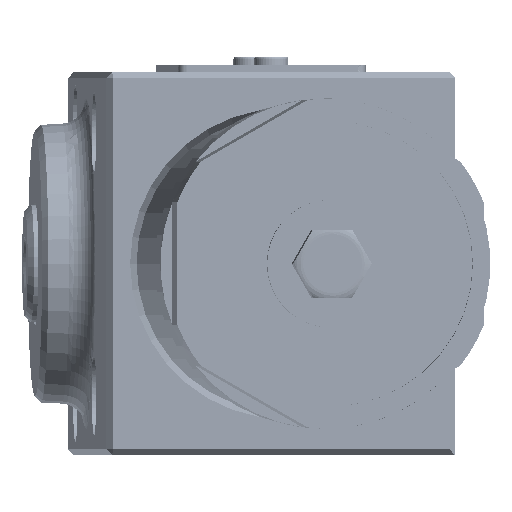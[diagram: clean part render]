
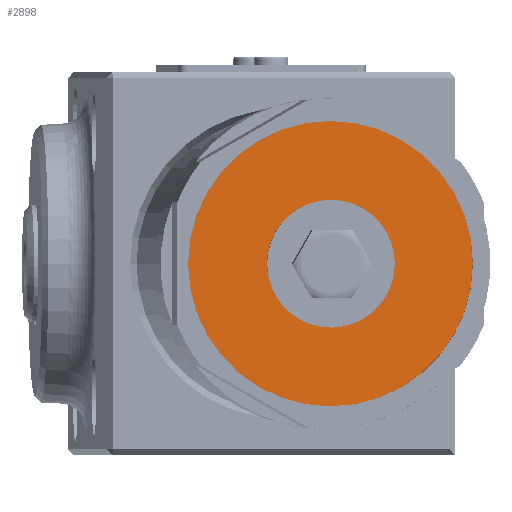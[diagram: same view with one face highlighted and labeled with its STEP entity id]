
A CAD part, left-side view. The second image highlights one B-rep face of the part: STEP entity #2898.
In plain terms, the highlighted planar face has unit normal (-0.999, -0.054, 0).
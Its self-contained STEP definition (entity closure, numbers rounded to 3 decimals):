
#865=PLANE('',#14212);
#1278=FACE_BOUND('',#4660,.T.);
#1279=FACE_BOUND('',#4661,.T.);
#2898=ADVANCED_FACE('',(#1278,#1279),#865,.F.);
#4660=EDGE_LOOP('',(#7549));
#4661=EDGE_LOOP('',(#7550));
#5717=CIRCLE('',#14208,5.);
#5719=CIRCLE('',#14211,16.75);
#7549=ORIENTED_EDGE('',*,*,#11662,.F.);
#7550=ORIENTED_EDGE('',*,*,#11660,.T.);
#10177=VERTEX_POINT('',#40708);
#10179=VERTEX_POINT('',#40713);
#11660=EDGE_CURVE('',#10177,#10177,#5717,.T.);
#11662=EDGE_CURVE('',#10179,#10179,#5719,.T.);
#14208=AXIS2_PLACEMENT_3D('',#40707,#16395,#16396);
#14211=AXIS2_PLACEMENT_3D('',#40712,#16401,#16402);
#14212=AXIS2_PLACEMENT_3D('',#40714,#16403,#16404);
#16395=DIRECTION('',(0.999,0.054,0.));
#16396=DIRECTION('',(0.,0.,-1.));
#16401=DIRECTION('',(0.999,0.054,0.));
#16402=DIRECTION('',(0.,0.,-1.));
#16403=DIRECTION('',(0.999,0.054,0.));
#16404=DIRECTION('',(0.,0.,-1.));
#40707=CARTESIAN_POINT('',(33.778,-10.712,-0.001));
#40708=CARTESIAN_POINT('',(33.778,-10.712,-5.001));
#40712=CARTESIAN_POINT('',(33.778,-10.712,-0.001));
#40713=CARTESIAN_POINT('',(33.778,-10.712,-16.751));
#40714=CARTESIAN_POINT('',(33.507,-5.72,-0.001));
